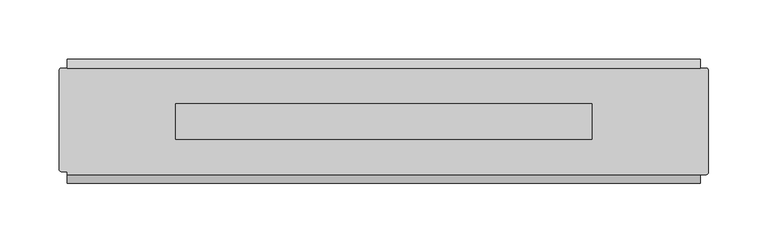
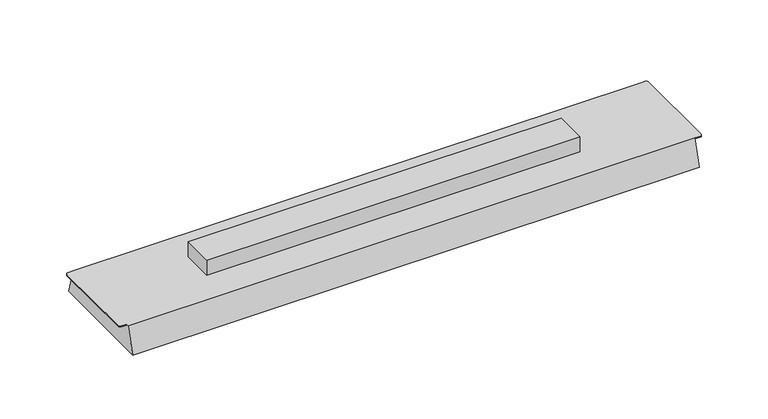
"""IFC4 building model written with IfcOpenShell, lengths in millimetres: light fixture geometry, GENILED_Светильник светодиодный_Retail Standart : Retail Standart 535x105x25 20Вт Опал."""

from ifc_helpers import new_model, si_unit, frame, origin, place, context, project, spatial, circle_curve, source, transform, mapped, element, save
from ifc_brep_helpers import plane_surface, cylinder_surface, advanced_brep


def light_fixture_6ae0b5f7(model_context):
    return source(origin(), model_context, "Body", "AdvancedBrep", [
        advanced_brep(
        [(267.5, 45.0, 25.0), (-267.5, 45.0, 25.0), (-272.5, 45.0, 25.0), (-274.5, 43.0, 25.0), (-274.5, -40.5, 25.0), (-272.5, -42.5, 25.0), (-267.5, -42.5, 25.0), (-267.5, -45.0, 25.0), (267.5, -45.0, 25.0), (272.5, -45.0, 25.0), (274.5, -43.0, 25.0), (274.5, 43.0, 25.0), (272.5, 45.0, 25.0), (-176.0, 15.0, 25.0), (176.0, 15.0, 25.0), (176.0, -15.0, 25.0), (-176.0, -15.0, 25.0), (267.5, 52.5, 0.0), (267.5, -52.5, 0.0), (-267.5, -52.5, 0.0), (-267.5, 52.5, 0.0), (-267.5, -42.5, 24.0), (-267.5, 45.0, 24.0), (267.5, 45.0, 24.0), (267.5, -45.0, 24.0), (176.0, 15.0, 40.0), (-176.0, 15.0, 40.0), (-176.0, -15.0, 40.0), (176.0, -15.0, 40.0), (272.5, 45.0, 24.0), (274.5, 43.0, 24.0), (274.5, -43.0, 24.0), (272.5, -45.0, 24.0), (-272.5, -42.5, 24.0), (-274.5, -40.5, 24.0), (-274.5, 43.0, 24.0), (-272.5, 45.0, 24.0)],
        [
            (0, 1),
            (1, 2),
            (2, 3, circle_curve(frame((-272.5, 43.0, 25.0), z_axis=(0.0, 0.0, 1.0), x_axis=(1.0, 0.0, 0.0)), 2.0)),
            (3, 4),
            (4, 5, circle_curve(frame((-272.5, -40.5, 25.0), z_axis=(0.0, 0.0, 1.0), x_axis=(1.0, 0.0, 0.0)), 2.0)),
            (5, 6),
            (6, 7),
            (7, 8),
            (8, 9),
            (9, 10, circle_curve(frame((272.5, -43.0, 25.0), z_axis=(0.0, 0.0, 1.0), x_axis=(1.0, 0.0, 0.0)), 2.0)),
            (10, 11),
            (11, 12, circle_curve(frame((272.5, 43.0, 25.0), z_axis=(0.0, 0.0, 1.0), x_axis=(1.0, 0.0, 0.0)), 2.0)),
            (12, 0),
            (13, 14),
            (14, 15),
            (15, 16),
            (16, 13),
            (17, 18),
            (18, 19),
            (19, 20),
            (20, 17),
            (0, 17),
            (20, 1),
            (19, 7),
            (6, 21),
            (21, 22),
            (22, 1),
            (18, 8),
            (0, 23),
            (23, 24),
            (24, 8),
            (25, 26),
            (26, 27),
            (27, 28),
            (28, 25),
            (25, 14),
            (13, 26),
            (16, 27),
            (15, 28),
            (29, 30, circle_curve(frame((272.5, 43.0, 24.0), z_axis=(0.0, 0.0, -1.0), x_axis=(1.0, 0.0, 0.0)), 2.0)),
            (30, 31),
            (31, 32, circle_curve(frame((272.5, -43.0, 24.0), z_axis=(0.0, 0.0, -1.0), x_axis=(1.0, 0.0, 0.0)), 2.0)),
            (32, 24),
            (23, 29),
            (12, 29),
            (32, 9),
            (31, 10),
            (30, 11),
            (21, 33),
            (33, 34, circle_curve(frame((-272.5, -40.5, 24.0), z_axis=(0.0, 0.0, -1.0), x_axis=(1.0, 0.0, 0.0)), 2.0)),
            (34, 35),
            (35, 36, circle_curve(frame((-272.5, 43.0, 24.0), z_axis=(0.0, 0.0, -1.0), x_axis=(1.0, 0.0, 0.0)), 2.0)),
            (36, 22),
            (36, 2),
            (35, 3),
            (34, 4),
            (33, 5),
        ],
        [
            plane_surface(frame((0.0, 0.0, 25.0), z_axis=(0.0, 0.0, 1.0), x_axis=(-1.0, 0.0, 0.0))),
            plane_surface(frame((0.0, 0.0, 0.0), z_axis=(0.0, 0.0, -1.0), x_axis=(-1.0, 0.0, 0.0))),
            plane_surface(frame((0.0, 52.5, 0.0), z_axis=(0.0, 0.9578262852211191, 0.28734788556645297), x_axis=(-1.0, 0.0, 0.0))),
            plane_surface(frame((-267.5, 0.0, 0.0), z_axis=(-1.0, 0.0, 0.0), x_axis=(0.0, -1.0, 0.0))),
            plane_surface(frame((0.0, -52.5, 0.0), z_axis=(0.0, -0.9578262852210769, 0.2873478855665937), x_axis=(1.0, 0.0, 0.0))),
            plane_surface(frame((267.5, 0.0, 0.0), z_axis=(1.0, 0.0, 0.0), x_axis=(0.0, 1.0, 0.0))),
            plane_surface(frame((-176.0, 15.0, 40.0), z_axis=(0.0, 0.0, 1.0), x_axis=(-1.0, 0.0, 0.0))),
            plane_surface(frame((176.0, 15.0, 40.0), z_axis=(0.0, 1.0, 0.0), x_axis=(0.0, 0.0, -1.0))),
            plane_surface(frame((-176.0, 15.0, 40.0), z_axis=(-1.0, 0.0, 0.0), x_axis=(0.0, 0.0, -1.0))),
            plane_surface(frame((-176.0, -15.0, 40.0), z_axis=(0.0, -1.0, 0.0), x_axis=(0.0, 0.0, -1.0))),
            plane_surface(frame((176.0, -15.0, 40.0), z_axis=(1.0, 0.0, 0.0), x_axis=(0.0, 0.0, -1.0))),
            plane_surface(frame((267.5, 45.0, 24.0), z_axis=(0.0, 0.0, -1.0), x_axis=(1.0, 0.0, 0.0))),
            plane_surface(frame((272.5, 45.0, 25.0), z_axis=(0.0, 1.0, 0.0), x_axis=(0.0, 0.0, -1.0))),
            plane_surface(frame((267.5, -45.0, 25.0), z_axis=(0.0, -1.0, 0.0), x_axis=(0.0, 0.0, -1.0))),
            cylinder_surface(frame((272.5, -43.0, 24.0), z_axis=(0.0, 0.0, 1.0), x_axis=(1.0, 0.0, 0.0)), 2.0),
            plane_surface(frame((274.5, -43.0, 25.0), z_axis=(1.0, 0.0, 0.0), x_axis=(0.0, 0.0, -1.0))),
            cylinder_surface(frame((272.5, 43.0, 24.0), z_axis=(0.0, 0.0, 1.0), x_axis=(1.0, 0.0, 0.0)), 2.0),
            plane_surface(frame((-272.5, 45.0, 24.0), z_axis=(0.0, 0.0, -1.0), x_axis=(1.0, 0.0, 0.0))),
            plane_surface(frame((-267.5, 45.0, 25.0), z_axis=(0.0, 1.0, 0.0), x_axis=(0.0, 0.0, -1.0))),
            cylinder_surface(frame((-272.5, 43.0, 24.0), z_axis=(0.0, 0.0, 1.0), x_axis=(1.0, 0.0, 0.0)), 2.0),
            plane_surface(frame((-274.5, 43.0, 25.0), z_axis=(-1.0, 0.0, 0.0), x_axis=(0.0, 0.0, -1.0))),
            cylinder_surface(frame((-272.5, -40.5, 24.0), z_axis=(0.0, 0.0, 1.0), x_axis=(1.0, 0.0, 0.0)), 2.0),
            plane_surface(frame((-272.5, -42.5, 25.0), z_axis=(0.0, -1.0, 0.0), x_axis=(0.0, 0.0, -1.0))),
        ],
        [
            (0, [[1, 2, 3, 4, 5, 6, 7, 8, 9, 10, 11, 12, 13], [14, 15, 16, 17]]),
            (1, [[18, 19, 20, 21]]),
            (2, [[-1, 22, -21, 23]]),
            (3, [[-20, 24, -7, 25, 26, 27, -23]]),
            (4, [[-8, -24, -19, 28]]),
            (5, [[-18, -22, 29, 30, 31, -28]]),
            (6, [[32, 33, 34, 35]]),
            (7, [[-32, 36, -14, 37]]),
            (8, [[-33, -37, -17, 38]]),
            (9, [[-34, -38, -16, 39]]),
            (10, [[-35, -39, -15, -36]]),
            (11, [[40, 41, 42, 43, -30, 44]]),
            (12, [[-13, 45, -44, -29]]),
            (13, [[-9, -31, -43, 46]]),
            (14, [[-10, -46, -42, 47]]),
            (15, [[-11, -47, -41, 48]]),
            (16, [[-12, -48, -40, -45]]),
            (17, [[49, 50, 51, 52, 53, -26]]),
            (18, [[-2, -27, -53, 54]]),
            (19, [[-3, -54, -52, 55]]),
            (20, [[-4, -55, -51, 56]]),
            (21, [[-5, -56, -50, 57]]),
            (22, [[-6, -57, -49, -25]]),
        ],
    ),
    ])


if __name__ == "__main__":
    model = new_model("IFC4")
    model_context = context("Model", 3, world=origin())
    ifc_project = project(units=[si_unit("LENGTHUNIT", "METRE", prefix="MILLI")], contexts=[model_context])
    site = spatial("IfcSite", under=ifc_project)
    building = spatial("IfcBuilding", under=site)
    placement = place(None, origin())
    light_fixture_shape = light_fixture_6ae0b5f7(model_context)
    element("IfcLightFixture", 1, ObjectType="GENILED_Светильник светодиодный_Retail Standart : Retail Standart 535x105x25 20Вт Опал", at=placement, inside=building, context=model_context, shape_type="MappedRepresentation", body=[
        mapped(light_fixture_shape, transform((0.0, 0.0, 0.0), x_axis=(1.0, 0.0, 0.0), y_axis=(0.0, 1.0, 0.0), z_axis=(0.0, 0.0, 1.0))),
    ])
    save(model, "model.ifc")
